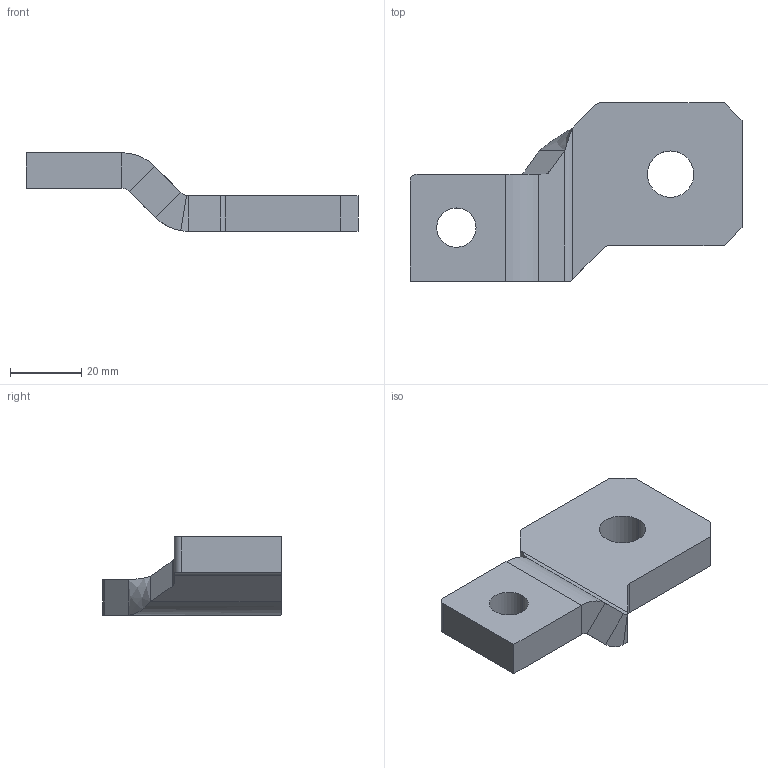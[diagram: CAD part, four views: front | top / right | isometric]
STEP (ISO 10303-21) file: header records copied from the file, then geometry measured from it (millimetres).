
FILE_DESCRIPTION (( 'STEP AP203' ), '1' );
FILE_NAME ('8LD.580.1115.STEP', '2023-09-21T01:09:52', ( '' ), ( '' ), 'SwSTEP 2.0', 'SolidWorks 2018', '' );
FILE_SCHEMA (( 'CONFIG_CONTROL_DESIGN' ));
Length unit declared in the file: millimetre
Products named in the file (1): 8LD.580.1115
Bounding box: 93 x 50 x 22 mm (x, y, z)
Volume: 32434 mm3; surface area: 9941.6 mm2
Topology: 1 solids, 1 shells, 37 faces, 89 edges, 54 vertices
Faces by surface type: plane 22, cylinder 13, bspline 2
Entity records: 1164 total; most frequent: CARTESIAN_POINT 223, ORIENTED_EDGE 178, DIRECTION 177, EDGE_CURVE 89, AXIS2_PLACEMENT_3D 60, LINE 57, VECTOR 57, VERTEX_POINT 54
